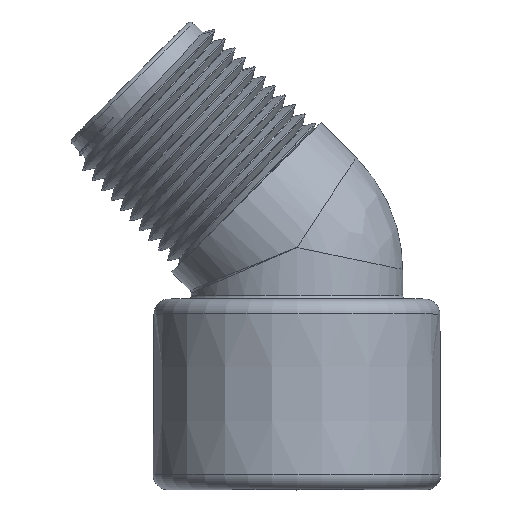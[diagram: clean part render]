
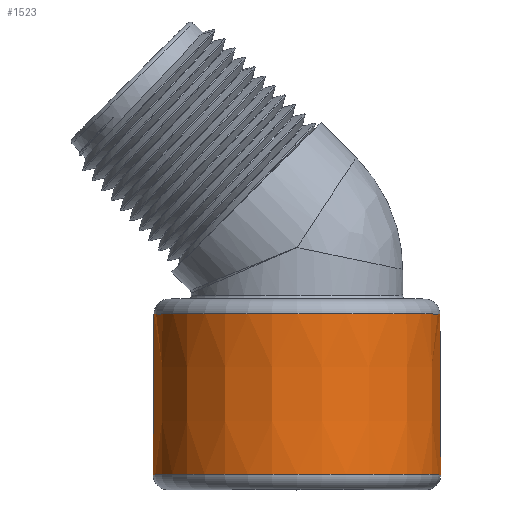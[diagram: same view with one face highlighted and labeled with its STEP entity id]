
A CAD part, top view. The second image highlights one B-rep face of the part: STEP entity #1523.
In plain terms, the highlighted conical face has half-angle 0.319 degrees and reference radius 18.93 mm.
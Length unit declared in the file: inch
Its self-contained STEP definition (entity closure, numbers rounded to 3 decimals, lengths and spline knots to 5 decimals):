
#260=VECTOR('',#1697,1.);
#261=VECTOR('',#1698,1.);
#305=LINE('',#1858,#260);
#306=LINE('',#1860,#261);
#350=CONICAL_SURFACE('',#1624,0.74527,0.006);
#363=VERTEX_POINT('',#1853);
#364=VERTEX_POINT('',#1855);
#365=VERTEX_POINT('',#1859);
#366=VERTEX_POINT('',#1861);
#531=CIRCLE('',#1634,0.74296);
#532=CIRCLE('',#1635,0.74759);
#565=EDGE_CURVE('',#363,#365,#305,.T.);
#566=EDGE_CURVE('',#364,#366,#306,.T.);
#574=EDGE_CURVE('',#366,#365,#531,.F.);
#575=EDGE_CURVE('',#364,#363,#532,.F.);
#833=ORIENTED_EDGE('',*,*,#566,.F.);
#834=ORIENTED_EDGE('',*,*,#575,.T.);
#835=ORIENTED_EDGE('',*,*,#565,.T.);
#836=ORIENTED_EDGE('',*,*,#574,.F.);
#1319=EDGE_LOOP('',(#833,#834,#835,#836));
#1422=FACE_BOUND('',#1319,.T.);
#1523=ADVANCED_FACE('',(#1422),#350,.T.);
#1624=AXIS2_PLACEMENT_3D('',#1857,#1695,#1696);
#1634=AXIS2_PLACEMENT_3D('',#1875,#1715,#1716);
#1635=AXIS2_PLACEMENT_3D('',#1876,#1717,#1718);
#1695=DIRECTION('',(0.,-1.,0.));
#1696=DIRECTION('',(-0.745,0.,0.));
#1697=DIRECTION('',(-0.006,1.,0.));
#1698=DIRECTION('',(0.006,1.,0.));
#1715=DIRECTION('',(0.,-1.,0.));
#1716=DIRECTION('',(-0.743,0.,0.));
#1717=DIRECTION('',(0.,-1.,0.));
#1718=DIRECTION('',(-0.748,0.,0.));
#1853=CARTESIAN_POINT('',(0.74759,-0.91216,0.));
#1855=CARTESIAN_POINT('',(-0.74759,-0.91216,0.));
#1857=CARTESIAN_POINT('',(0.,-0.49523,0.));
#1858=CARTESIAN_POINT('',(0.74759,-0.91216,0.));
#1859=CARTESIAN_POINT('',(0.74296,-0.0783,0.));
#1860=CARTESIAN_POINT('',(-0.74759,-0.91216,0.));
#1861=CARTESIAN_POINT('',(-0.74296,-0.0783,0.));
#1875=CARTESIAN_POINT('',(0.,-0.0783,0.));
#1876=CARTESIAN_POINT('',(0.,-0.91216,0.));
